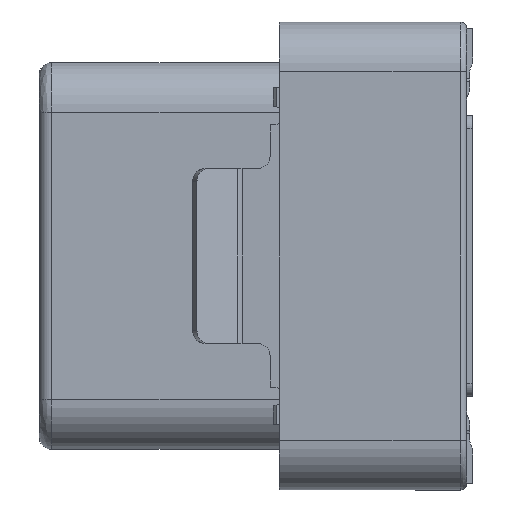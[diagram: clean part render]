
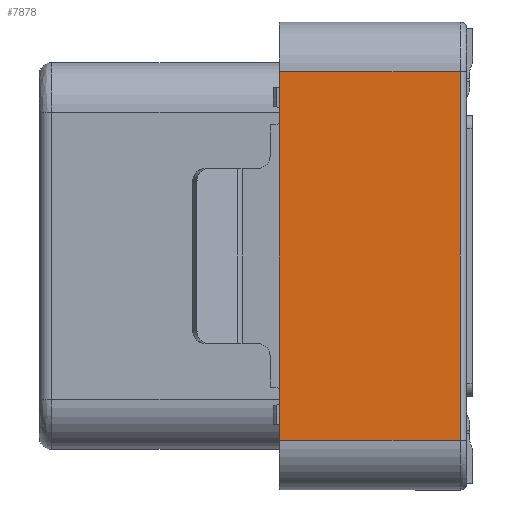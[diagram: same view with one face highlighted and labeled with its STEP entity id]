
A CAD part, left-side view. The second image highlights one B-rep face of the part: STEP entity #7878.
In plain terms, the highlighted planar face has unit normal (-1, 0, 0).
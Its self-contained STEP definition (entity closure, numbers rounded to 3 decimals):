
#17 = PLANE ( 'NONE',  #18403 ) ;
#1071 = EDGE_CURVE ( 'NONE', #10564, #6269, #5946, .T. ) ;
#1619 = EDGE_CURVE ( 'NONE', #8819, #6269, #24101, .T. ) ;
#1931 = DIRECTION ( 'NONE',  ( -1., 0., 0. ) ) ;
#4707 = CARTESIAN_POINT ( 'NONE',  ( -7.92, 3.1, -2.95 ) ) ;
#4822 = VECTOR ( 'NONE', #24627, 1000. ) ;
#5092 = CARTESIAN_POINT ( 'NONE',  ( -7.92, 3.1, 0. ) ) ;
#5105 = CARTESIAN_POINT ( 'NONE',  ( -7.92, 0.2, -2.95 ) ) ;
#5946 = LINE ( 'NONE', #5092, #12706 ) ;
#6002 = CARTESIAN_POINT ( 'NONE',  ( -7.92, 3.1, -2.95 ) ) ;
#6269 = VERTEX_POINT ( 'NONE', #6002 ) ;
#6939 = CARTESIAN_POINT ( 'NONE',  ( -7.92, 0.2, 3.75 ) ) ;
#7145 = EDGE_LOOP ( 'NONE', ( #18974, #8088, #15695, #11293 ) ) ;
#7878 = ADVANCED_FACE ( 'NONE', ( #11068 ), #17, .T. ) ;
#8088 = ORIENTED_EDGE ( 'NONE', *, *, #20044, .T. ) ;
#8819 = VERTEX_POINT ( 'NONE', #5105 ) ;
#8935 = DIRECTION ( 'NONE',  ( 0., 1., 0. ) ) ;
#9286 = EDGE_CURVE ( 'NONE', #10564, #22186, #10372, .T. ) ;
#10372 = LINE ( 'NONE', #12928, #4822 ) ;
#10564 = VERTEX_POINT ( 'NONE', #15437 ) ;
#11068 = FACE_OUTER_BOUND ( 'NONE', #7145, .T. ) ;
#11293 = ORIENTED_EDGE ( 'NONE', *, *, #1071, .T. ) ;
#12706 = VECTOR ( 'NONE', #20896, 1000. ) ;
#12928 = CARTESIAN_POINT ( 'NONE',  ( -7.92, 3.1, 2.95 ) ) ;
#13136 = CARTESIAN_POINT ( 'NONE',  ( -7.92, 0.2, 2.95 ) ) ;
#15437 = CARTESIAN_POINT ( 'NONE',  ( -7.92, 3.1, 2.95 ) ) ;
#15695 = ORIENTED_EDGE ( 'NONE', *, *, #9286, .F. ) ;
#15700 = DIRECTION ( 'NONE',  ( 0., 0., 1. ) ) ;
#15878 = CARTESIAN_POINT ( 'NONE',  ( -7.92, 3.1, 3.75 ) ) ;
#17860 = DIRECTION ( 'NONE',  ( 0., 0., 1. ) ) ;
#18403 = AXIS2_PLACEMENT_3D ( 'NONE', #15878, #1931, #15700 ) ;
#18974 = ORIENTED_EDGE ( 'NONE', *, *, #1619, .F. ) ;
#20044 = EDGE_CURVE ( 'NONE', #8819, #22186, #20633, .T. ) ;
#20633 = LINE ( 'NONE', #6939, #24601 ) ;
#20896 = DIRECTION ( 'NONE',  ( 0., 0., -1. ) ) ;
#22186 = VERTEX_POINT ( 'NONE', #13136 ) ;
#22859 = VECTOR ( 'NONE', #8935, 1000. ) ;
#24101 = LINE ( 'NONE', #4707, #22859 ) ;
#24601 = VECTOR ( 'NONE', #17860, 1000. ) ;
#24627 = DIRECTION ( 'NONE',  ( 0., -1., 0. ) ) ;
